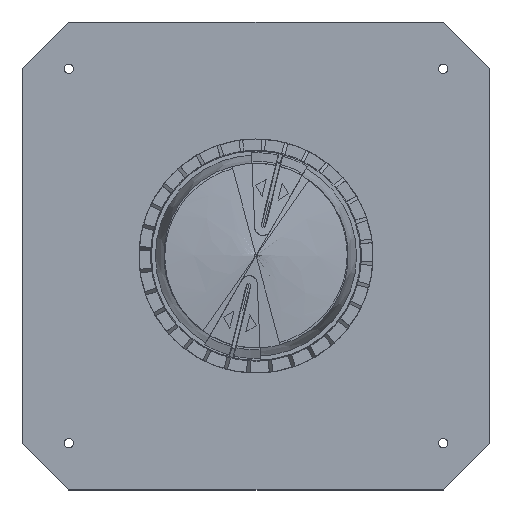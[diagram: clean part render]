
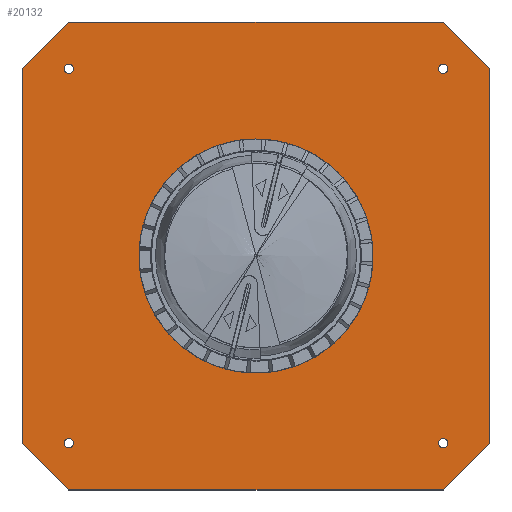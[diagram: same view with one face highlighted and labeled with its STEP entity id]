
A CAD part, top view. The second image highlights one B-rep face of the part: STEP entity #20132.
In plain terms, the highlighted planar face has unit normal (0, 0, 1).
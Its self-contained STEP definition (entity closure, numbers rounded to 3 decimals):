
#229=LINE($,#29546,#2198);
#232=LINE($,#29552,#2201);
#235=LINE($,#29558,#2204);
#238=LINE($,#29564,#2207);
#241=LINE($,#29570,#2210);
#245=LINE($,#29577,#2214);
#248=LINE($,#29583,#2217);
#250=LINE($,#29586,#2219);
#2198=VECTOR($,#23417,56.569);
#2201=VECTOR($,#23422,320.);
#2204=VECTOR($,#23427,56.569);
#2207=VECTOR($,#23432,320.);
#2210=VECTOR($,#23437,56.569);
#2214=VECTOR($,#23443,320.);
#2217=VECTOR($,#23448,56.569);
#2219=VECTOR($,#23452,320.);
#4457=FACE_BOUND($,#5730,.T.);
#4458=FACE_BOUND($,#5731,.T.);
#4459=FACE_BOUND($,#5732,.T.);
#4460=FACE_BOUND($,#5733,.T.);
#4461=FACE_BOUND($,#5734,.T.);
#4462=FACE_BOUND($,#5735,.T.);
#5730=EDGE_LOOP($,(#12649));
#5731=EDGE_LOOP($,(#12650));
#5732=EDGE_LOOP($,(#12651));
#5733=EDGE_LOOP($,(#12652));
#5734=EDGE_LOOP($,(#12653,#12654,#12655,#12656,#12657,#12658,#12659,#12660));
#5735=EDGE_LOOP($,(#12661));
#6963=CIRCLE($,#21293,4.);
#6965=CIRCLE($,#21296,4.);
#6967=CIRCLE($,#21299,4.);
#6969=CIRCLE($,#21302,4.);
#6970=CIRCLE($,#21312,63.);
#7802=VERTEX_POINT($,#29522);
#7804=VERTEX_POINT($,#29527);
#7806=VERTEX_POINT($,#29532);
#7808=VERTEX_POINT($,#29537);
#7811=VERTEX_POINT($,#29543);
#7812=VERTEX_POINT($,#29545);
#7814=VERTEX_POINT($,#29551);
#7816=VERTEX_POINT($,#29557);
#7818=VERTEX_POINT($,#29563);
#7820=VERTEX_POINT($,#29569);
#7822=VERTEX_POINT($,#29575);
#7824=VERTEX_POINT($,#29581);
#7825=VERTEX_POINT($,#29588);
#9632=EDGE_CURVE($,#7802,#7802,#6963,.T.);
#9634=EDGE_CURVE($,#7804,#7804,#6965,.T.);
#9636=EDGE_CURVE($,#7806,#7806,#6967,.T.);
#9638=EDGE_CURVE($,#7808,#7808,#6969,.T.);
#9641=EDGE_CURVE($,#7812,#7811,#229,.T.);
#9644=EDGE_CURVE($,#7814,#7812,#232,.T.);
#9647=EDGE_CURVE($,#7816,#7814,#235,.T.);
#9650=EDGE_CURVE($,#7818,#7816,#238,.T.);
#9653=EDGE_CURVE($,#7820,#7818,#241,.T.);
#9657=EDGE_CURVE($,#7811,#7822,#245,.T.);
#9660=EDGE_CURVE($,#7822,#7824,#248,.T.);
#9662=EDGE_CURVE($,#7824,#7820,#250,.T.);
#9663=EDGE_CURVE($,#7825,#7825,#6970,.T.);
#12649=ORIENTED_EDGE($,*,*,#9632,.T.);
#12650=ORIENTED_EDGE($,*,*,#9634,.T.);
#12651=ORIENTED_EDGE($,*,*,#9636,.T.);
#12652=ORIENTED_EDGE($,*,*,#9638,.T.);
#12653=ORIENTED_EDGE($,*,*,#9653,.T.);
#12654=ORIENTED_EDGE($,*,*,#9650,.T.);
#12655=ORIENTED_EDGE($,*,*,#9647,.T.);
#12656=ORIENTED_EDGE($,*,*,#9644,.T.);
#12657=ORIENTED_EDGE($,*,*,#9641,.T.);
#12658=ORIENTED_EDGE($,*,*,#9657,.T.);
#12659=ORIENTED_EDGE($,*,*,#9660,.T.);
#12660=ORIENTED_EDGE($,*,*,#9662,.T.);
#12661=ORIENTED_EDGE($,*,*,#9663,.T.);
#18633=PLANE($,#21314);
#20132=ADVANCED_FACE($,(#4457,#4458,#4459,#4460,#4461,#4462),#18633,.T.);
#21293=AXIS2_PLACEMENT_3D($,#29523,#23393,#23394);
#21296=AXIS2_PLACEMENT_3D($,#29528,#23399,#23400);
#21299=AXIS2_PLACEMENT_3D($,#29533,#23405,#23406);
#21302=AXIS2_PLACEMENT_3D($,#29538,#23411,#23412);
#21312=AXIS2_PLACEMENT_3D($,#29589,#23455,#23456);
#21314=AXIS2_PLACEMENT_3D($,#29592,#23459,#23460);
#23393=DIRECTION('center_axis',(0.,0.,-1.));
#23394=DIRECTION('ref_axis',(-1.,0.,0.));
#23399=DIRECTION('center_axis',(0.,0.,-1.));
#23400=DIRECTION('ref_axis',(-1.,0.,0.));
#23405=DIRECTION('center_axis',(0.,0.,-1.));
#23406=DIRECTION('ref_axis',(-1.,0.,0.));
#23411=DIRECTION('center_axis',(0.,0.,-1.));
#23412=DIRECTION('ref_axis',(-1.,0.,0.));
#23417=DIRECTION($,(-0.707,-0.707,0.));
#23422=DIRECTION($,(-1.,0.,0.));
#23427=DIRECTION($,(-0.707,0.707,0.));
#23432=DIRECTION($,(0.,1.,0.));
#23437=DIRECTION($,(0.707,0.707,0.));
#23443=DIRECTION($,(0.,-1.,0.));
#23448=DIRECTION($,(0.707,-0.707,0.));
#23452=DIRECTION($,(1.,0.,0.));
#23455=DIRECTION('center_axis',(0.,0.,-1.));
#23456=DIRECTION('ref_axis',(0.,1.,0.));
#23459=DIRECTION('center_axis',(0.,0.,1.));
#23460=DIRECTION('ref_axis',(1.,0.,0.));
#29522=CARTESIAN_POINT('',(164.,-160.,0.));
#29523=CARTESIAN_POINT('Origin',(160.,-160.,0.));
#29527=CARTESIAN_POINT('',(164.,160.,0.));
#29528=CARTESIAN_POINT('Origin',(160.,160.,0.));
#29532=CARTESIAN_POINT('',(-156.,160.,0.));
#29533=CARTESIAN_POINT('Origin',(-160.,160.,0.));
#29537=CARTESIAN_POINT('',(-156.,-160.,0.));
#29538=CARTESIAN_POINT('Origin',(-160.,-160.,0.));
#29543=CARTESIAN_POINT('',(-200.,160.,0.));
#29545=CARTESIAN_POINT('',(-160.,200.,0.));
#29546=CARTESIAN_POINT($,(-124.625,235.375,0.));
#29551=CARTESIAN_POINT('',(160.,200.,0.));
#29552=CARTESIAN_POINT($,(80.,200.,0.));
#29557=CARTESIAN_POINT('',(200.,160.,0.));
#29558=CARTESIAN_POINT($,(144.625,215.375,0.));
#29563=CARTESIAN_POINT('',(200.,-160.,0.));
#29564=CARTESIAN_POINT($,(200.,10.75,0.));
#29569=CARTESIAN_POINT('',(160.,-200.,0.));
#29570=CARTESIAN_POINT($,(215.375,-144.625,0.));
#29575=CARTESIAN_POINT('',(-200.,-160.,0.));
#29577=CARTESIAN_POINT($,(-200.,170.75,0.));
#29581=CARTESIAN_POINT('',(-160.,-200.,0.));
#29583=CARTESIAN_POINT($,(-235.375,-124.625,0.));
#29586=CARTESIAN_POINT($,(-80.,-200.,0.));
#29588=CARTESIAN_POINT('',(0.,63.,0.));
#29589=CARTESIAN_POINT('Origin',(0.,0.,0.));
#29592=CARTESIAN_POINT('Origin',(0.,181.5,0.));
